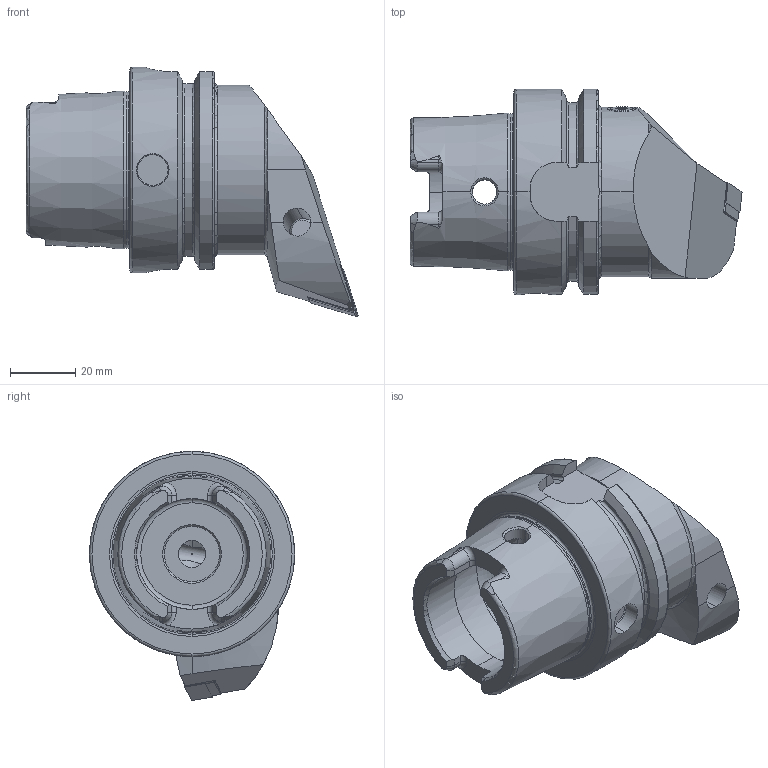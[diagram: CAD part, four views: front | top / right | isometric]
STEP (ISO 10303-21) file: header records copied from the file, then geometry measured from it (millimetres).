
FILE_DESCRIPTION (( 'STEP AP214' ), '1' );
FILE_NAME ('HA6.PDF.RHA.070-HP.STEP', '2020-09-17T07:19:12', ( '' ), ( '' ), 'SwSTEP 2.0', 'SolidWorks 2017', '' );
FILE_SCHEMA (( 'AUTOMOTIVE_DESIGN' ));
Length unit declared in the file: millimetre
Products named in the file (13): CHP-ER1.008.014_A; CHP-ER1.015.006; WCD-ER4.101.017_A; DIN 3771 - 13x1; WCD-ER1.101.000; CHP-ER1.015.006_A; WDF-ER2.101.003_A; DIN 7991 - M5x15; WDF-ER3.101.000_A; HA6-PDF.RHA.070-HP_A; HA6.PDF.RHA.070-HP; ISO 8752 2x8; DNMG150604
Assembly tree (12 placements, depth 3):
  HA6.PDF.RHA.070-HP
    HA6-PDF.RHA.070-HP_A
    DNMG150604
    WDF-ER3.101.000_A
    WCD-ER1.101.000
    WCD-ER4.101.017_A
    WDF-ER2.101.003_A
    CHP-ER1.008.014_A
    ISO 8752 2x8
    CHP-ER1.015.006
      CHP-ER1.015.006_A
      DIN 3771 - 13x1
      DIN 7991 - M5x15
Bounding box: 101.91 x 63 x 76.51 mm (x, y, z)
Volume: 138135.9 mm3; surface area: 35018.4 mm2
Topology: 11 solids, 11 shells, 499 faces, 1248 edges, 758 vertices
Faces by surface type: plane 159, cylinder 135, cone 123, torus 58, bspline 24
Entity records: 18228 total; most frequent: CARTESIAN_POINT 5525, ORIENTED_EDGE 2456, DIRECTION 2368, EDGE_CURVE 1228, AXIS2_PLACEMENT_3D 932, VERTEX_POINT 758, EDGE_LOOP 528, LINE 504
